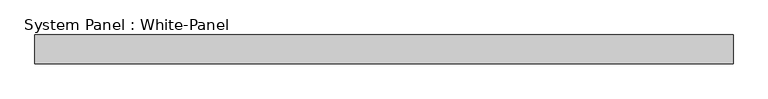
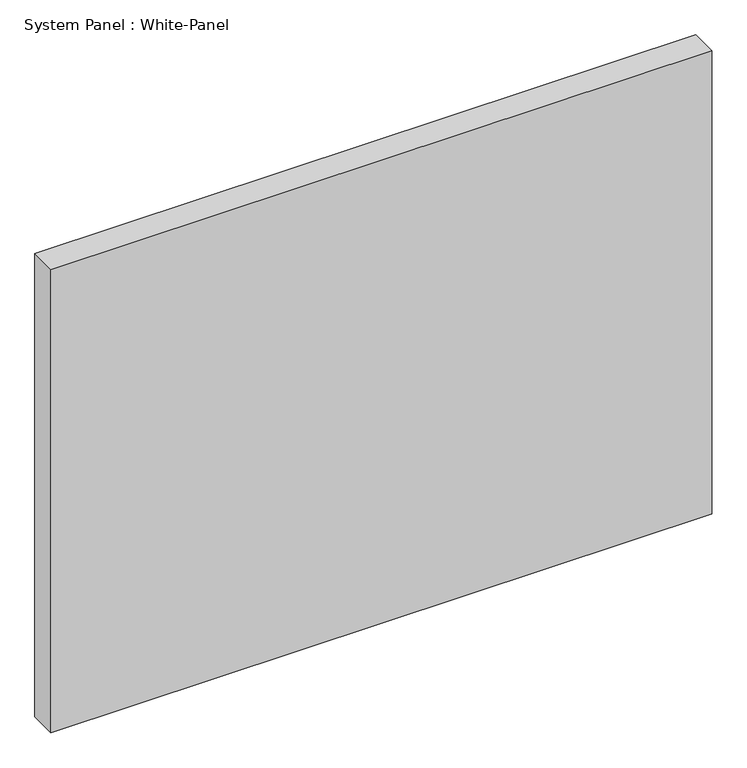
"""IFC4 building model written with IfcOpenShell, lengths in millimetres: plate geometry, System Panel : White-Panel."""

from ifc_helpers import new_model, si_unit, origin, origin_with_axes, place, context, project, spatial, polyline, outline, extrude, source, transform, mapped, element, save


def system_panel_white_panel_6a64f577(model_context):
    return source(origin(), model_context, "Body", "SweptSolid", [
        extrude(outline(polyline([(725.0, -10.5), (-725.0, -10.5), (-725.0, 49.5), (725.0, 49.5), (725.0, -10.5)])), origin_with_axes(), (0.0, 0.0, 1.0), 1075.0),
    ])


if __name__ == "__main__":
    model = new_model("IFC4")
    model_context = context("Model", 3, world=origin())
    ifc_project = project(units=[si_unit("LENGTHUNIT", "METRE", prefix="MILLI")], contexts=[model_context])
    site = spatial("IfcSite", under=ifc_project)
    building = spatial("IfcBuilding", under=site)
    placement = place(None, origin())
    system_panel_white_panel_shape = system_panel_white_panel_6a64f577(model_context)
    element("IfcPlate", 1, ObjectType="System Panel : White-Panel", at=placement, inside=building, context=model_context, shape_type="MappedRepresentation", body=[
        mapped(system_panel_white_panel_shape, transform((0.0, 0.0, 0.0), x_axis=(1.0, 0.0, 0.0), y_axis=(0.0, 1.0, 0.0), z_axis=(0.0, 0.0, 1.0))),
    ])
    save(model, "model.ifc")
